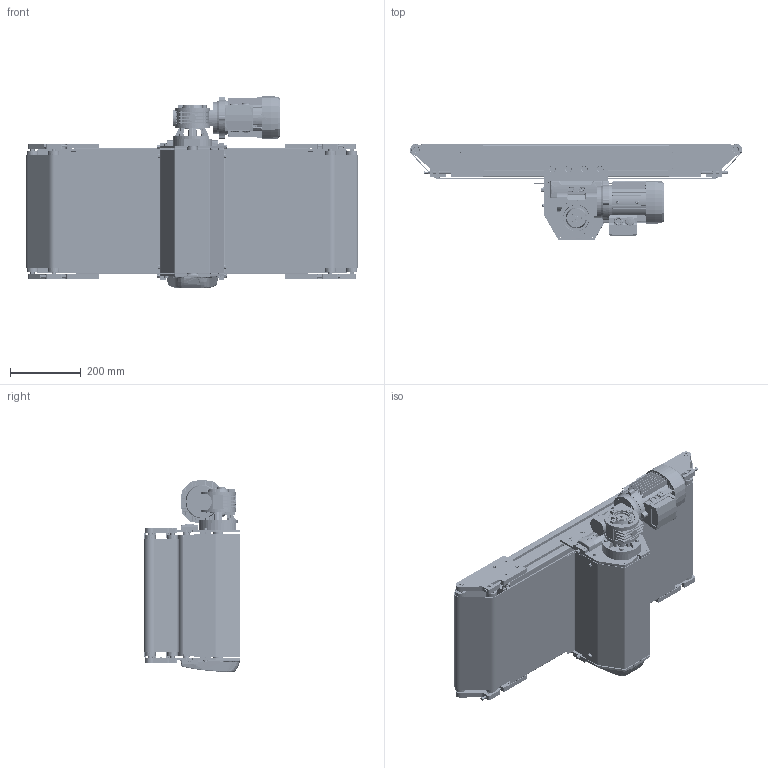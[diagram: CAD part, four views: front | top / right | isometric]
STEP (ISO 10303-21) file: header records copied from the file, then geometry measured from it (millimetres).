
FILE_DESCRIPTION (( 'STEP AP203' ), '1' );
FILE_NAME ('NASTRO_RETTILINEO_TAPPETO.step', '2026-04-21T12:03:58', ( 'Utente Windows' ), ( '' ), 'SwSTEP 2.0', 'SolidWorks 2024', '' );
FILE_SCHEMA (( 'CONFIG_CONTROL_DESIGN' ));
Length unit declared in the file: millimetre
Products named in the file (60): 456.015.101_456.015.101 DX; VITI TSEI UNI 5933_M8x30 UNI 5933; TAPPETO_CENTRALE_2PENNE; VITI TSEI UNI 5933_M6x12 UNI 5933; RONDELLE FASCIA LARGA UNI 6593_6.4x24 UNI 6593; NASTRO_RETTILINEO_TAPPETO; CARTER_50-95_CENTRALE; 084.302.000 DADI ALUSIC 13x13-1_084.302.007; VITI TE UNI 5739_M6x70 UNI 5739; PERNO_TENSIONAMENTO_50-95_CENTRALE; LAMIERA_2_PENNE; VITI TE UNI 5739_M8x20 UNI 5739; VITI TE UNI 5739_M6x50 UNI 5739; CH04F_DX; VITE_DADO_M5X12; BLOCCO_TRAINO_50-95_CENTRALE; VITE_DADO_M6X12; 30UNI7435; TRAVERSA_50-95_CENTRALE_Default<A macchina>; CHIAVETTE_A 8x7x20 UNI 6604-69; DADI ESAGONALI NORMALI UNI 5588_M6 UNI 5588; VITI TE UNI 5739_M8x12 UNI 5739; BLOCCO_PERNO_50_CENTRALE_44; 084.802.003; 084.802.004-1; 084.802.064; 084.302.000 DADI ALUSIC 13x13_084.302.015; VITI TSEI UNI 5933_M8x20 UNI 5933; 12UNI7435; RULLO_95_PENNA; 456.015.101_456.015.101 SX; 084.810.003; PERNO_INF_95_PENNA; 084.802.070; 084.802.021; 084.814.002-1; 084.301.000 VITI ALUSIC_084.301.003; 084.802.020; RULLO_TENSIONAMENTO_50-95_CENTRALE; BLOCCO_RINVIO_95_PENNA_SX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
Assembly tree (143 placements, depth 3):
  NASTRO_RETTILINEO_TAPPETO
    TAPPETO_CENTRALE_2PENNE
    TELAIO_95_STANDARD_Default<A macchina>
    LAMIERA_2_PENNE
    RULLO_95_PENNA  x4
    BLOCCO_RINVIO_95_PENNA_DX  x2
      456.015.101_456.015.101 DX
      084.802.036
      084.301.000 VITI ALUSIC_084.301.003
      VITI TE UNI 5739_M6x70 UNI 5739
      VITI TSEI UNI 5933_M8x30 UNI 5933
      084.302.016
      12UNI7435
    PERNO_SUP_95_PENNA  x2
    BLOCCO_RINVIO_95_PENNA_SX  x2
      456.015.101_456.015.101 SX
      084.802.036
      084.301.000 VITI ALUSIC_084.301.003
      VITI TE UNI 5739_M6x70 UNI 5739
      VITI TSEI UNI 5933_M8x30 UNI 5933
      084.302.016
      12UNI7435
    PERNO_INF_95_PENNA  x2
    RULLO_95_Default<A macchina>
    BLOCCO_TRAINO_50-95_CENTRALE_44
      084.802.010
      084.802.021
      084.802.004-1  x2
      084.802.003
      VITI TSEI UNI 5933_M8x20 UNI 5933  x4
      084.302.017
      VITI TE UNI 5739_M6x50 UNI 5739  x2
      DADI ESAGONALI NORMALI UNI 5588_M6 UNI 5588  x2
      VITI TE UNI 5739_M6x16 UNI 5739  x2
      RONDELLE UNI 6592_6.4x12.5 UNI 6592  x2
      VITI TSEI UNI 5933_M6x12 UNI 5933  x4
      VITI TSEI UNI 5933_M8x16 UNI 5933  x3
      VITI TE UNI 5739_M8x20 UNI 5739  x4
      084.802.070
    BLOCCO_TRAINO_50-95_CENTRALE
      084.802.004-1  x2
      084.802.020
      084.802.003
      VITI TSEI UNI 5933_M8x20 UNI 5933  x4
      VITI TSEI UNI 5933_M6x12 UNI 5933  x6
      RONDELLE UNI 6592_8.4x17 UNI 6592  x2
      VITI TE UNI 5739_M8x12 UNI 5739  x2
      VITI TE UNI 5739_M6x16 UNI 5739  x2
      084.302.017
      RONDELLE UNI 6592_6.4x12.5 UNI 6592  x2
      VITI TE UNI 5739_M6x50 UNI 5739  x2
      DADI ESAGONALI NORMALI UNI 5588_M6 UNI 5588  x2
      084.802.064
    BLOCCO_PERNO_50_CENTRALE_44
      084.814.002-1
      084.810.003
      RONDELLE FASCIA LARGA UNI 6593_6.4x24 UNI 6593
      VITI TE UNI 5739_M6x12 UNI 5739
      CHIAVETTE_A 6x6x60 UNI 6604-69
      CHIAVETTE_A 8x7x20 UNI 6604-69
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Bounding box: 935.95 x 272.5 x 540.4 mm (x, y, z)
Volume: 10782716.9 mm3; surface area: 6122168.1 mm2
Topology: 189 solids, 204 shells, 6584 faces, 16466 edges, 10468 vertices
Faces by surface type: plane 2812, cylinder 2128, cone 751, bspline 620, torus 258, sphere 15
Entity records: 156279 total; most frequent: CARTESIAN_POINT 53701, ORIENTED_EDGE 20626, DIRECTION 18341, EDGE_CURVE 10313, AXIS2_PLACEMENT_3D 6623, VERTEX_POINT 6607, VECTOR 5095, LINE 5095
